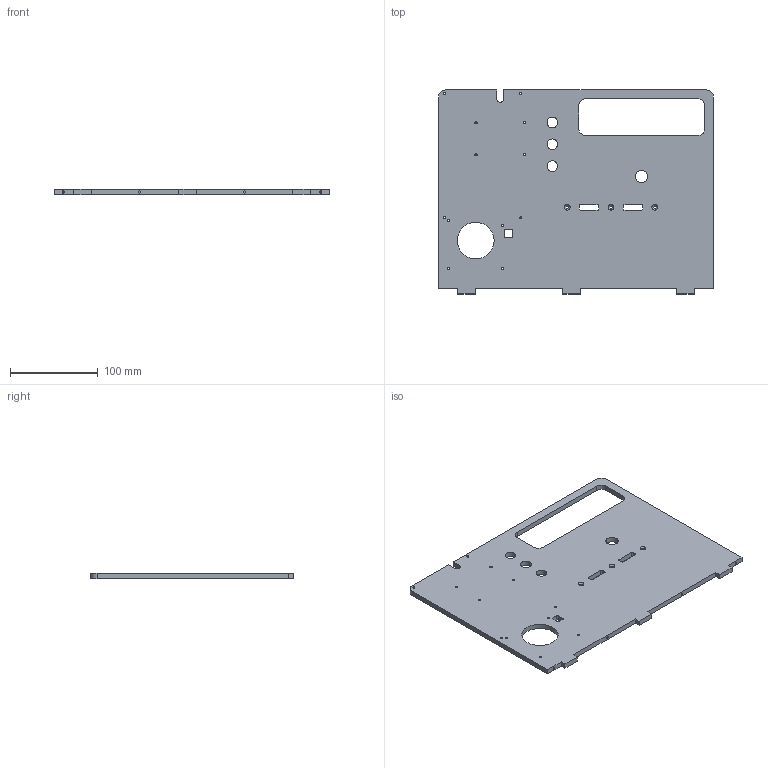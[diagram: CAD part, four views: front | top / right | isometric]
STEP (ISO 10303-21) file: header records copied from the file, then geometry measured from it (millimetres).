
FILE_DESCRIPTION(('Open CASCADE Model'),'2;1');
FILE_NAME('Open CASCADE Shape Model','2026-10-14T18:02:53',('Author'),( 'Open CASCADE'),'Open CASCADE STEP processor 7.9','Open CASCADE 7.9' ,'Unknown');
FILE_SCHEMA(('AUTOMOTIVE_DESIGN { 1 0 10303 214 1 1 1 1 }'));
Length unit declared in the file: millimetre
Products named in the file (1): Open CASCADE STEP translator 7.9 1
Bounding box: 314 x 233 x 6 mm (x, y, z)
Volume: 378779.1 mm3; surface area: 138986.8 mm2
Topology: 1 solids, 1 shells, 87 faces, 243 edges, 162 vertices
Faces by surface type: cylinder 43, plane 41, cone 3
Full cylindrical faces by diameter (mm): 2.5 x16, 3.4 x3, 12.2 x3, 14 x1, 42 x1
Entity records: 6143 total; most frequent: CARTESIAN_POINT 1308, DIRECTION 878, ORIENTED_EDGE 486, PCURVE 486, DEFINITIONAL_REPRESENTATION 486, LINE 474, VECTOR 474, EDGE_CURVE 243
